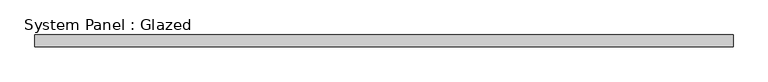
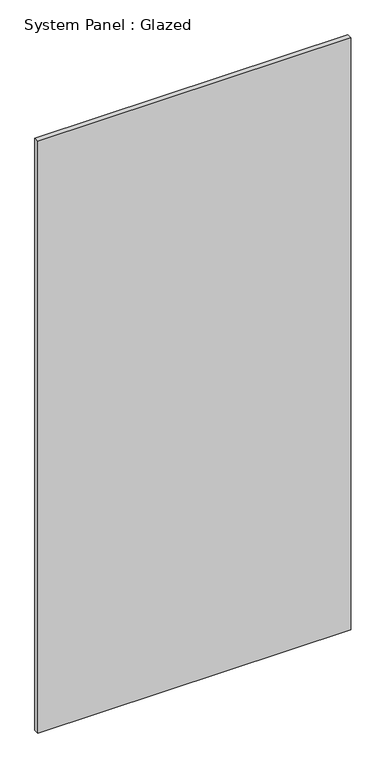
"""IFC4 building model written with IfcOpenShell, lengths in millimetres: plate geometry, System Panel : Glazed."""

import ifcopenshell
import ifcopenshell.guid

model = None  # the IFC model being written
_history = None  # IfcOwnerHistory: only IFC2X3 demands one
_inside = {}  # id of a spatial element -> (the spatial element, [elements in it])
_under = {}  # id of a project, library or spatial element -> (it, [spatial elements below it])
_declared = {}  # id of a project -> (the project, [libraries it declares])
_typed = {}  # id of a type object -> (the type object, [elements of that type])
_made_of = {}  # id of a material, layer set ... -> (it, [elements and type objects made of it])


def new_model(schema):
    """Start an empty IFC model of exactly this schema.

    Asked for "IFC4X3", IfcOpenShell would pick the latest addendum, in which some entities
    have other attributes; the version numbers below select the first issue.
    IFC2X3 requires an IfcOwnerHistory on every rooted entity: one is made here for all.
    """
    global model, _history
    if schema == "IFC4X3":
        model = ifcopenshell.file(schema_version=(4, 3, 0, 0))
    else:
        model = ifcopenshell.file(schema=schema)
    _inside.clear()
    _under.clear()
    _declared.clear()
    _typed.clear()
    _made_of.clear()
    _history = None
    if model.schema == "IFC2X3":
        org = make("IfcOrganization", Name="unknown")
        user = make(
            "IfcPersonAndOrganization",
            ThePerson=make("IfcPerson", FamilyName="unknown"),
            TheOrganization=org,
        )
        app = make(
            "IfcApplication",
            ApplicationDeveloper=org,
            Version="unknown",
            ApplicationFullName="unknown",
            ApplicationIdentifier="unknown",
        )
        _history = make(
            "IfcOwnerHistory",
            OwningUser=user,
            OwningApplication=app,
            ChangeAction="ADDED",
            CreationDate=0,
        )
    return model


def make(cls, **values):
    """One entity of the class cls with the attributes given. An attribute that is None is left unset."""
    return model.create_entity(
        cls, **{name: value for name, value in values.items() if value is not None}
    )


def rooted(cls, **values):
    """An entity with a GlobalId (a new one), such as an element, a storey or a relation."""
    return make(cls, GlobalId=ifcopenshell.guid.new(), OwnerHistory=_history, **values)


def si_unit(unit_type, name, prefix=None):
    """IfcSIUnit, for example si_unit("LENGTHUNIT", "METRE", prefix="MILLI")."""
    return make("IfcSIUnit", UnitType=unit_type, Prefix=prefix, Name=name)


def assignment(units):
    """IfcUnitAssignment: the units of a project."""
    return None if units is None else make("IfcUnitAssignment", Units=units)


def point(xyz):
    """IfcCartesianPoint."""
    return None if xyz is None else make("IfcCartesianPoint", Coordinates=xyz)


def direction(xyz):
    """IfcDirection."""
    return None if xyz is None else make("IfcDirection", DirectionRatios=xyz)


def frame(location, z_axis=None, x_axis=None):
    """IfcAxis2Placement3D, a coordinate frame: its origin and axes. An axis left out is left unset."""
    return make(
        "IfcAxis2Placement3D",
        Location=point(location),
        Axis=direction(z_axis),
        RefDirection=direction(x_axis),
    )


def origin():
    """The frame at (0, 0, 0) with its axes left unset."""
    return frame((0.0, 0.0, 0.0))


def origin_with_axes():
    """The frame at (0, 0, 0) with the z axis (0, 0, 1) and the x axis (1, 0, 0) written out."""
    return frame((0.0, 0.0, 0.0), z_axis=(0.0, 0.0, 1.0), x_axis=(1.0, 0.0, 0.0))


def place(relative_to, where):
    """IfcLocalPlacement: puts the frame where relative to a parent placement (None: the world)."""
    return make(
        "IfcLocalPlacement", PlacementRelTo=relative_to, RelativePlacement=where
    )


def context(
    kind, dimensions, precision=None, world=None, true_north=None, identifier=None
):
    """IfcGeometricRepresentationContext, for example the 3D "Model" context."""
    return make(
        "IfcGeometricRepresentationContext",
        ContextIdentifier=identifier,
        ContextType=kind,
        CoordinateSpaceDimension=dimensions,
        Precision=precision,
        WorldCoordinateSystem=world,
        TrueNorth=true_north,
    )


def project(units=None, contexts=None):
    """IfcProject with its units and contexts."""
    return rooted(
        "IfcProject",
        Name="project",
        RepresentationContexts=contexts,
        UnitsInContext=assignment(units),
    )


def spatial(cls, under=None, at=None, **own):
    """A site, building, storey or space (cls), placed at a placement, below another one or the project."""
    s = rooted(cls, ObjectPlacement=at, **own)
    if under is not None:
        _under.setdefault(under.id(), (under, []))[1].append(s)
    return s


def polyline(points):
    """IfcPolyline through the points."""
    return make("IfcPolyline", Points=[point(p) for p in points])


def outline(outer, holes=None, kind="AREA"):
    """IfcArbitraryClosedProfileDef: a profile drawn as a closed curve; with holes, ...WithVoids."""
    if holes is None:
        return make("IfcArbitraryClosedProfileDef", ProfileType=kind, OuterCurve=outer)
    return make(
        "IfcArbitraryProfileDefWithVoids",
        ProfileType=kind,
        OuterCurve=outer,
        InnerCurves=holes,
    )


def extrude(swept, where, along, depth):
    """IfcExtrudedAreaSolid: the profile swept, set in the frame where, extruded along a direction by depth."""
    return make(
        "IfcExtrudedAreaSolid",
        SweptArea=swept,
        Position=where,
        ExtrudedDirection=direction(along),
        Depth=depth,
    )


def shape(context_of_items, identifier, shape_type, items):
    """IfcShapeRepresentation: the items that make up one representation, for example the "Body"."""
    return make(
        "IfcShapeRepresentation",
        ContextOfItems=context_of_items,
        RepresentationIdentifier=identifier,
        RepresentationType=shape_type,
        Items=items,
    )


def source(mapping_origin, context_of_items, identifier, shape_type, items):
    """IfcRepresentationMap: a shape defined once, which mapped items show again and again."""
    return make(
        "IfcRepresentationMap",
        MappingOrigin=mapping_origin,
        MappedRepresentation=shape(context_of_items, identifier, shape_type, items),
    )


def transform(
    local_origin,
    x_axis=None,
    y_axis=None,
    z_axis=None,
    scale=None,
    scale2=None,
    scale3=None,
    uniform=True,
):
    """IfcCartesianTransformationOperator3D, or its non-uniform kind. x_axis, y_axis, z_axis: its Axis1, 2, 3."""
    if uniform:
        return make(
            "IfcCartesianTransformationOperator3D",
            Axis1=direction(x_axis),
            Axis2=direction(y_axis),
            LocalOrigin=point(local_origin),
            Scale=scale,
            Axis3=direction(z_axis),
        )
    return make(
        "IfcCartesianTransformationOperator3DnonUniform",
        Axis1=direction(x_axis),
        Axis2=direction(y_axis),
        LocalOrigin=point(local_origin),
        Scale=scale,
        Axis3=direction(z_axis),
        Scale2=scale2,
        Scale3=scale3,
    )


def mapped(mapping_source, mapping_target):
    """IfcMappedItem: shows the shape of a source again, moved by a transform."""
    return make(
        "IfcMappedItem", MappingSource=mapping_source, MappingTarget=mapping_target
    )


def made_of(thing, what):
    """Note that an element or type object is made of a material, layer set ...; save() writes the relation."""
    if what is not None:
        _made_of.setdefault(what.id(), (what, []))[1].append(thing)
    return thing


def element(
    cls,
    number,
    at=None,
    inside=None,
    cuts=None,
    type_object=None,
    material=None,
    context=None,
    identifier="Body",
    shape_type=None,
    held_by="IfcProductDefinitionShape",
    body=None,
    shapes=None,
    **own,
):
    """One element of the class cls, such as IfcWall. Its Tag is "e" and its number.

    at: its placement. inside: the storey or other place that contains it. cuts: it is an
    opening in that element (IfcRelVoidsElement). A single representation is given by context,
    identifier, shape_type and body (its items); several are given by shapes. held_by: the class
    of the entity that holds the representations. save() writes the other relations.
    """
    e = rooted(cls, Tag="e%d" % number, ObjectPlacement=at, **own)
    if body is not None:
        shapes = [shape(context, identifier, shape_type, body)]
    if shapes is not None:
        e.Representation = make(held_by, Representations=shapes)
    if inside is not None:
        _inside.setdefault(inside.id(), (inside, []))[1].append(e)
    if cuts is not None:
        rooted(
            "IfcRelVoidsElement", RelatingBuildingElement=cuts, RelatedOpeningElement=e
        )
    if type_object is not None:
        _typed.setdefault(type_object.id(), (type_object, []))[1].append(e)
    return made_of(e, material)


def aggregate(whole, parts):
    """IfcRelAggregates: a whole, such as a stair, and the parts it consists of."""
    return rooted("IfcRelAggregates", RelatingObject=whole, RelatedObjects=parts)


def save(model, path):
    """Write the relations noted so far, then the file.

    IfcRelAggregates (storeys below a building ...), IfcRelContainedInSpatialStructure (elements
    in a storey), IfcRelDefinesByType, IfcRelAssociatesMaterial and IfcRelDeclares: one each for
    every whole, place, type object, material and project.
    """
    for whole, parts in _under.values():
        aggregate(whole, parts)
    for where, things in _inside.values():
        rooted(
            "IfcRelContainedInSpatialStructure",
            RelatedElements=things,
            RelatingStructure=where,
        )
    for kind, things in _typed.values():
        rooted("IfcRelDefinesByType", RelatedObjects=things, RelatingType=kind)
    for what, things in _made_of.values():
        rooted("IfcRelAssociatesMaterial", RelatedObjects=things, RelatingMaterial=what)
    for by, libraries in _declared.values():
        rooted("IfcRelDeclares", RelatingContext=by, RelatedDefinitions=libraries)
    model.write(path)


def system_panel_glazed_f4f95d4f(model_context):
    return source(origin(), model_context, "Body", "SweptSolid", [
        extrude(outline(polyline([(762.000003, -44.45), (-762.000003, -44.45), (-762.000003, -19.05), (762.000003, -19.05), (762.000003, -44.45)])), origin_with_axes(), (0.0, 0.0, 1.0), 3048.0),
    ])


if __name__ == "__main__":
    model = new_model("IFC4")
    model_context = context("Model", 3, world=origin())
    ifc_project = project(units=[si_unit("LENGTHUNIT", "METRE", prefix="MILLI")], contexts=[model_context])
    site = spatial("IfcSite", under=ifc_project)
    building = spatial("IfcBuilding", under=site)
    placement = place(None, origin())
    system_panel_glazed_shape = system_panel_glazed_f4f95d4f(model_context)
    element("IfcPlate", 1, ObjectType="System Panel : Glazed", at=placement, inside=building, context=model_context, shape_type="MappedRepresentation", body=[
        mapped(system_panel_glazed_shape, transform((0.0, 0.0, 0.0), x_axis=(1.0, 0.0, 0.0), y_axis=(0.0, 1.0, 0.0), z_axis=(0.0, 0.0, 1.0))),
    ])
    save(model, "model.ifc")
